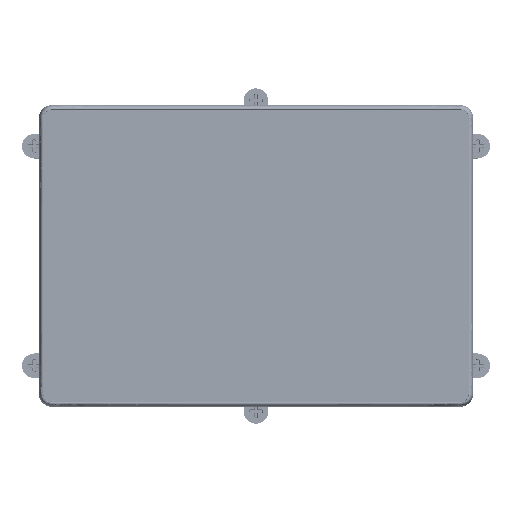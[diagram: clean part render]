
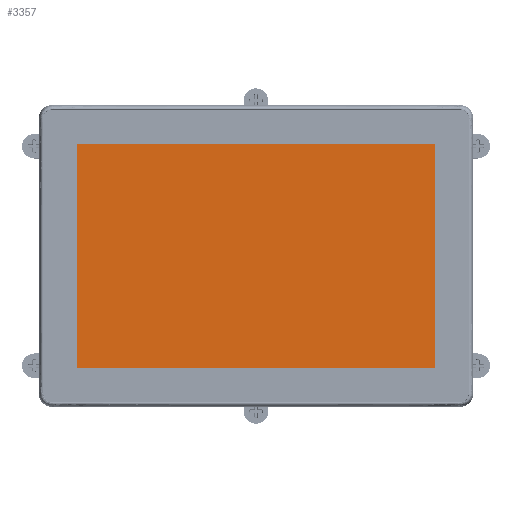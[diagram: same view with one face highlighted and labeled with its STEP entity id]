
A CAD part, top view. The second image highlights one B-rep face of the part: STEP entity #3357.
In plain terms, the highlighted planar face has unit normal (0, 0, 1).
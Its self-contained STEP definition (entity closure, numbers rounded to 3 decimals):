
#717=DIRECTION('',(0.,-1.,0.));
#718=VECTOR('',#717,136.64);
#719=CARTESIAN_POINT('',(-109.,68.32,4.29));
#720=LINE('',#719,#718);
#721=DIRECTION('',(-1.,0.,0.));
#722=VECTOR('',#721,218.);
#723=CARTESIAN_POINT('',(109.,68.32,4.29));
#724=LINE('',#723,#722);
#725=DIRECTION('',(0.,1.,0.));
#726=VECTOR('',#725,136.64);
#727=CARTESIAN_POINT('',(109.,-68.32,4.29));
#728=LINE('',#727,#726);
#729=DIRECTION('',(1.,0.,0.));
#730=VECTOR('',#729,218.);
#731=CARTESIAN_POINT('',(-109.,-68.32,4.29));
#732=LINE('',#731,#730);
#2222=CARTESIAN_POINT('',(-109.,68.32,4.29));
#2223=VERTEX_POINT('',#2222);
#2224=CARTESIAN_POINT('',(-109.,-68.32,4.29));
#2225=VERTEX_POINT('',#2224);
#2226=CARTESIAN_POINT('',(109.,68.32,4.29));
#2227=VERTEX_POINT('',#2226);
#2228=CARTESIAN_POINT('',(109.,-68.32,4.29));
#2229=VERTEX_POINT('',#2228);
#3346=CARTESIAN_POINT('',(0.,0.,4.29));
#3347=DIRECTION('',(0.,0.,1.));
#3348=DIRECTION('',(1.,0.,0.));
#3349=AXIS2_PLACEMENT_3D('',#3346,#3347,#3348);
#3350=PLANE('',#3349);
#3351=ORIENTED_EDGE('',*,*,#3269,.F.);
#3352=ORIENTED_EDGE('',*,*,#3293,.F.);
#3353=ORIENTED_EDGE('',*,*,#3312,.F.);
#3354=ORIENTED_EDGE('',*,*,#3332,.F.);
#3355=EDGE_LOOP('',(#3351,#3352,#3353,#3354));
#3356=FACE_OUTER_BOUND('',#3355,.F.);
#3357=ADVANCED_FACE('',(#3356),#3350,.T.);
#3269=EDGE_CURVE('',#2223,#2225,#720,.T.);
#3293=EDGE_CURVE('',#2227,#2223,#724,.T.);
#3312=EDGE_CURVE('',#2229,#2227,#728,.T.);
#3332=EDGE_CURVE('',#2225,#2229,#732,.T.);
